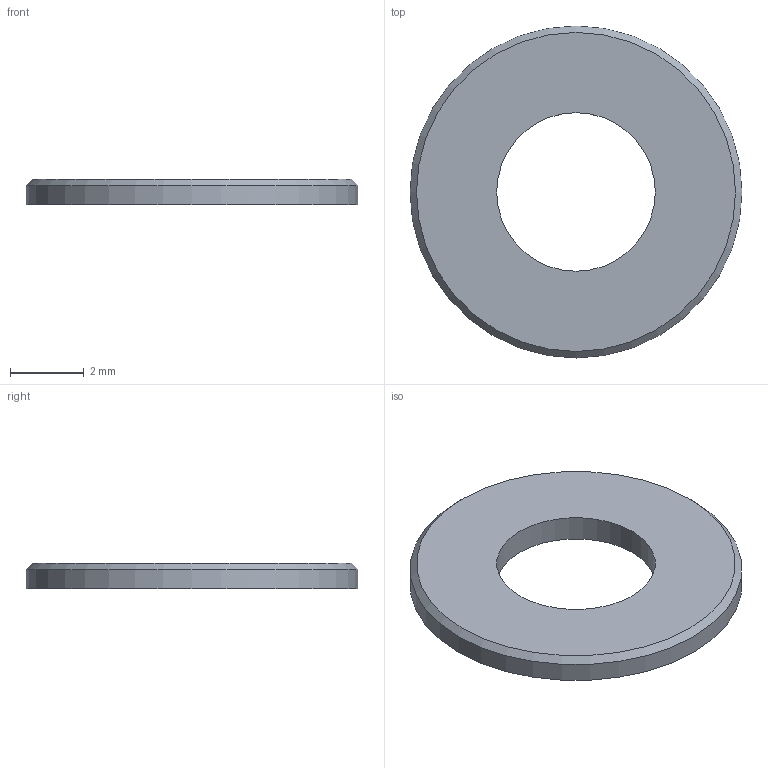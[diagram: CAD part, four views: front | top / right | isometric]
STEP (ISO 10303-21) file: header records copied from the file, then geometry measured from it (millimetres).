
FILE_DESCRIPTION(/* description */ ('STEP AP242 Edition 2','CAx-IF Rec.Pracs.---Representation and Presentation of Product Manufacturing Information (PMI)---4.0---2014-10-13','CAx-IF Rec.Pracs.---3D Tessellated Geometry---0.4---2014-09-14','2;1','CAx-IF Rec.Pracs.---User Defined Attributes---1.5---2016-08-15'),/* implementation_level */ '2;1');
FILE_NAME(/* name */ 'Assy_ForMFG - Chamfered plain washer normal M4 (12)',/* time_stamp */ '2026-05-15T19:56:09Z',/* author */ (''),/* organization */ (''),/* preprocessor_version */ 'ST-DEVELOPER v20',/* originating_system */ 'ONSHAPE BY PTC INC, 1.215',/* authorisation */ ' ');
FILE_SCHEMA (('AP242_MANAGED_MODEL_BASED_3D_ENGINEERING_MIM_LF { 1 0 10303 442 3 1 4 }'));
Length unit declared in the file: metre
Products named in the file (1): Chamfered plain washer normal M4
Bounding box: 9 x 9 x 0.7 mm (x, y, z)
Volume: 33.9 mm3; surface area: 124.5 mm2
Topology: 1 solids, 1 shells, 5 faces, 8 edges, 5 vertices
Faces by surface type: plane 2, cylinder 2, cone 1
Full cylindrical faces by diameter (mm): 4.3 x1, 9 x1
Entity records: 130 total; most frequent: DIRECTION 22, CARTESIAN_POINT 16, AXIS2_PLACEMENT_3D 11, ORIENTED_EDGE 10, EDGE_LOOP 10, FACE_BOUND 10, EDGE_CURVE 5, VERTEX_POINT 5
